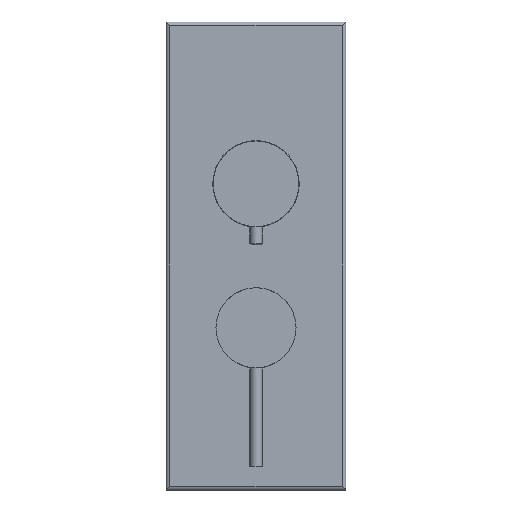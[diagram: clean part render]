
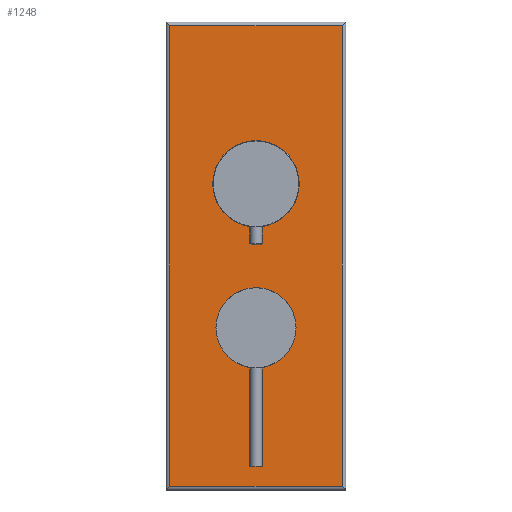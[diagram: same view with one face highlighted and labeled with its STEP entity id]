
A CAD part, top view. The second image highlights one B-rep face of the part: STEP entity #1248.
In plain terms, the highlighted planar face has unit normal (0, 0, 1).
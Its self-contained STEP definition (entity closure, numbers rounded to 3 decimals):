
#352=DIRECTION('',(1.,0.,0.));
#353=VECTOR('',#352,96.);
#354=CARTESIAN_POINT('',(-48.,-128.,7.));
#355=LINE('',#354,#353);
#356=DIRECTION('',(0.,-1.,0.));
#357=VECTOR('',#356,256.);
#358=CARTESIAN_POINT('',(-48.,128.,7.));
#359=LINE('',#358,#357);
#360=DIRECTION('',(-1.,0.,0.));
#361=VECTOR('',#360,96.);
#362=CARTESIAN_POINT('',(48.,128.,7.));
#363=LINE('',#362,#361);
#364=DIRECTION('',(0.,1.,0.));
#365=VECTOR('',#364,256.);
#366=CARTESIAN_POINT('',(48.,-128.,7.));
#367=LINE('',#366,#365);
#368=CARTESIAN_POINT('',(0.,40.,7.));
#369=DIRECTION('',(0.,0.,-1.));
#370=DIRECTION('',(1.,0.,0.));
#371=AXIS2_PLACEMENT_3D('',#368,#369,#370);
#373=CARTESIAN_POINT('',(0.,40.,7.));
#374=DIRECTION('',(0.,0.,-1.));
#375=DIRECTION('',(-1.,0.,0.));
#376=AXIS2_PLACEMENT_3D('',#373,#374,#375);
#378=CARTESIAN_POINT('',(0.,-40.,7.));
#379=DIRECTION('',(0.,0.,-1.));
#380=DIRECTION('',(1.,0.,0.));
#381=AXIS2_PLACEMENT_3D('',#378,#379,#380);
#383=CARTESIAN_POINT('',(0.,-40.,7.));
#384=DIRECTION('',(0.,0.,-1.));
#385=DIRECTION('',(-1.,0.,0.));
#386=AXIS2_PLACEMENT_3D('',#383,#384,#385);
#741=CARTESIAN_POINT('',(20.7,40.,7.));
#742=CARTESIAN_POINT('',(-20.7,40.,7.));
#743=VERTEX_POINT('',#741);
#744=VERTEX_POINT('',#742);
#773=CARTESIAN_POINT('',(20.7,-40.,7.));
#774=CARTESIAN_POINT('',(-20.7,-40.,7.));
#775=VERTEX_POINT('',#773);
#776=VERTEX_POINT('',#774);
#825=CARTESIAN_POINT('',(-48.,-128.,7.));
#826=CARTESIAN_POINT('',(48.,-128.,7.));
#827=VERTEX_POINT('',#825);
#828=VERTEX_POINT('',#826);
#831=CARTESIAN_POINT('',(-48.,128.,7.));
#832=VERTEX_POINT('',#831);
#835=CARTESIAN_POINT('',(48.,128.,7.));
#836=VERTEX_POINT('',#835);
#1223=CARTESIAN_POINT('',(0.,0.,7.));
#1224=DIRECTION('',(0.,0.,1.));
#1225=DIRECTION('',(0.,-1.,0.));
#1226=AXIS2_PLACEMENT_3D('',#1223,#1224,#1225);
#1227=PLANE('',#1226);
#1229=ORIENTED_EDGE('',*,*,#1228,.F.);
#1231=ORIENTED_EDGE('',*,*,#1230,.F.);
#1232=ORIENTED_EDGE('',*,*,#1201,.F.);
#1233=ORIENTED_EDGE('',*,*,#1213,.F.);
#1234=EDGE_LOOP('',(#1229,#1231,#1232,#1233));
#1235=FACE_OUTER_BOUND('',#1234,.F.);
#1237=ORIENTED_EDGE('',*,*,#1236,.F.);
#1239=ORIENTED_EDGE('',*,*,#1238,.F.);
#1240=EDGE_LOOP('',(#1237,#1239));
#1241=FACE_BOUND('',#1240,.F.);
#1243=ORIENTED_EDGE('',*,*,#1242,.F.);
#1245=ORIENTED_EDGE('',*,*,#1244,.F.);
#1246=EDGE_LOOP('',(#1243,#1245));
#1247=FACE_BOUND('',#1246,.F.);
#1248=ADVANCED_FACE('',(#1235,#1241,#1247),#1227,.T.);
#372=CIRCLE('',#371,20.7);
#377=CIRCLE('',#376,20.7);
#382=CIRCLE('',#381,20.7);
#387=CIRCLE('',#386,20.7);
#1201=EDGE_CURVE('',#836,#832,#363,.T.);
#1213=EDGE_CURVE('',#828,#836,#367,.T.);
#1228=EDGE_CURVE('',#827,#828,#355,.T.);
#1230=EDGE_CURVE('',#832,#827,#359,.T.);
#1236=EDGE_CURVE('',#743,#744,#372,.T.);
#1238=EDGE_CURVE('',#744,#743,#377,.T.);
#1242=EDGE_CURVE('',#775,#776,#382,.T.);
#1244=EDGE_CURVE('',#776,#775,#387,.T.);
